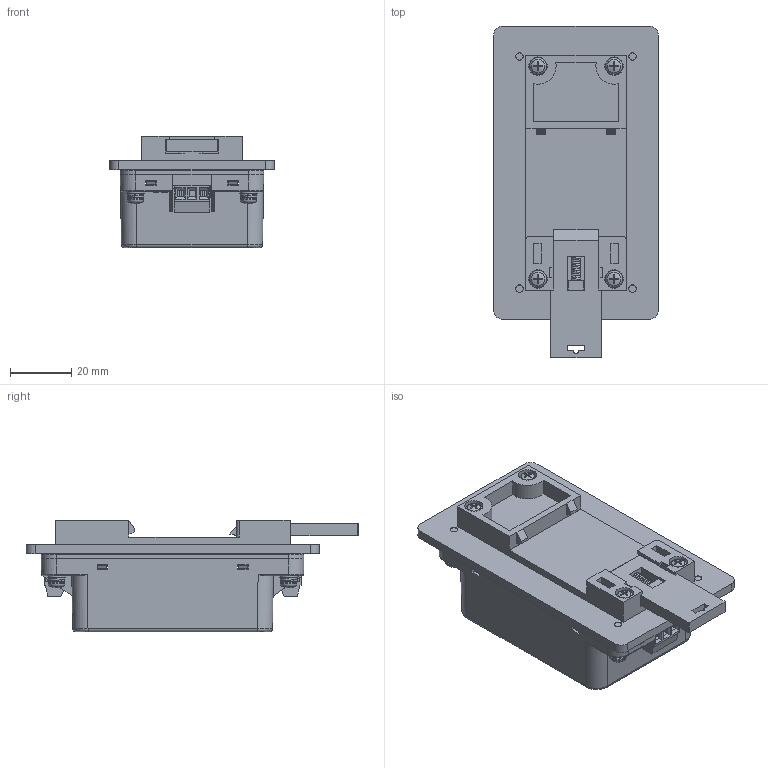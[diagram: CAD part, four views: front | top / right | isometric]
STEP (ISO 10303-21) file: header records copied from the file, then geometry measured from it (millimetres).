
FILE_DESCRIPTION(/* description */ (''),/* implementation_level */ '2;1');
FILE_NAME(/* name */ 'C:\Users\Calliope\Desktop\轉檔暫存用\AMF-30C-AC-DIN-07.stp',/* time_stamp */ '2024-03-01T19:11:16+08:00',/* author */ ('Calliope'),/* organization */ (''),/* preprocessor_version */ 'ST-DEVELOPER v16.1',/* originating_system */ 'Autodesk Inventor 2016',/* authorisation */ '');
FILE_SCHEMA (('AUTOMOTIVE_DESIGN { 1 0 10303 214 3 1 1 }'));
Length unit declared in the file: millimetre
Products named in the file (1): AMF-30C-AC-DIN-07
Bounding box: 54 x 108.71 x 36.5 mm (x, y, z)
Volume: 97574.4 mm3; surface area: 35735.9 mm2
Topology: 5 solids, 13 shells, 1170 faces, 3169 edges, 2070 vertices
Faces by surface type: plane 739, cylinder 206, cone 104, bspline 59, torus 52, sphere 10
Full cylindrical faces by diameter (mm): 1.2 x3, 1.5 x2, 1.8 x1, 2.459 x8, 2.5 x6, 2.729 x8, 2.8 x8, 3 x8, 3.4 x4, 3.5 x12, 5.5 x4, 5.8 x8, 6 x4
Entity records: 40701 total; most frequent: CARTESIAN_POINT 11009, ORIENTED_EDGE 5990, DIRECTION 5519, EDGE_CURVE 2995, LINE 2045, VECTOR 2045, VERTEX_POINT 2019, AXIS2_PLACEMENT_3D 1737
